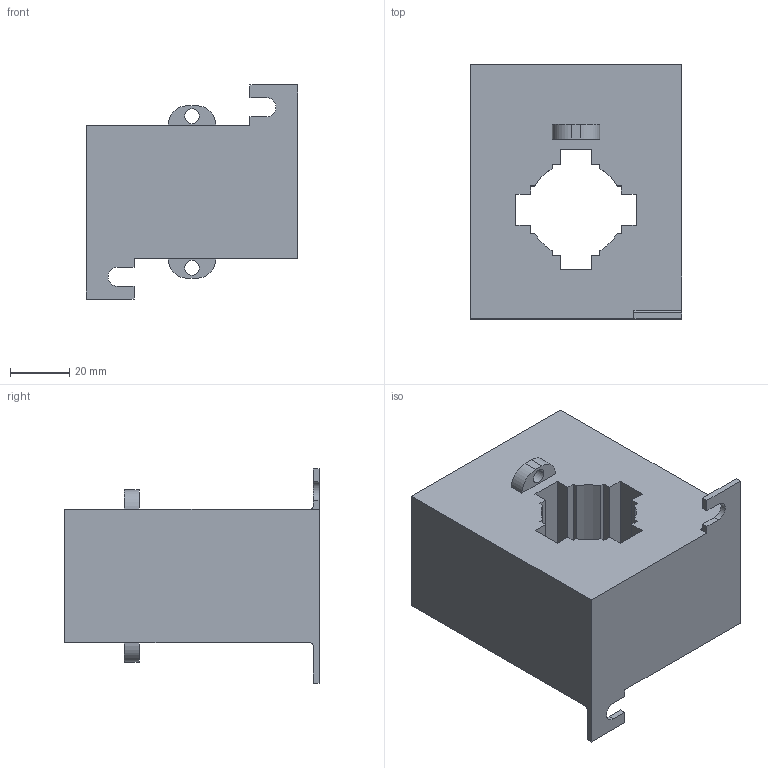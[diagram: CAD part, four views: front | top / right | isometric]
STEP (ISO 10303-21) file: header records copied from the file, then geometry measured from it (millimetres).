
FILE_DESCRIPTION((''),'2;1');
FILE_NAME('10001932386','2021-03-04T18:00:56',('TDlugos1'),('Rockwell Automation'),'CREO PARAMETRIC BY PTC INC, 2019444','CREO PARAMETRIC BY PTC INC, 2019444','');
FILE_SCHEMA(('CONFIG_CONTROL_DESIGN'));
Length unit declared in the file: millimetre
Products named in the file (1): 10001932386
Bounding box: 71 x 85.5 x 72 mm (x, y, z)
Volume: 229013.3 mm3; surface area: 32200.2 mm2
Topology: 1 solids, 1 shells, 68 faces, 192 edges, 128 vertices
Faces by surface type: plane 52, cylinder 16
Entity records: 2238 total; most frequent: CARTESIAN_POINT 388, ORIENTED_EDGE 384, DIRECTION 360, EDGE_CURVE 192, VECTOR 160, LINE 160, VERTEX_POINT 128, AXIS2_PLACEMENT_3D 100
